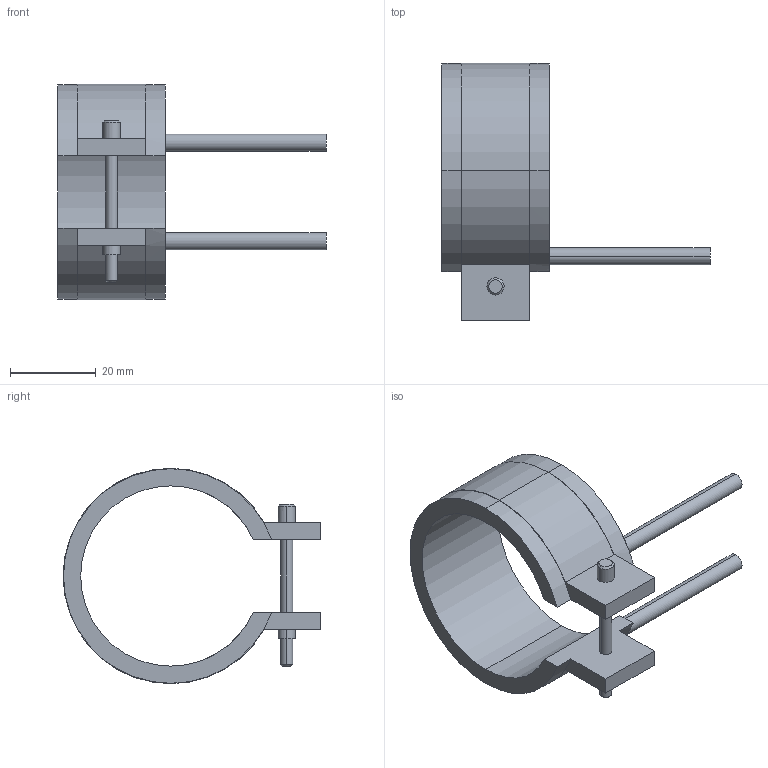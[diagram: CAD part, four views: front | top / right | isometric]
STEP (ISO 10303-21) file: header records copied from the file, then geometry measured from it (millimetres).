
FILE_DESCRIPTION(('CATIA V5 STEP Exchange'),'2;1');
FILE_NAME('C:\Users\Utente\Desktop\IO LAVORO\3D X SITO CF\X SITO\PLASTICA\RF2\14042025.stp','2021-03-31T12:04:53+00:00',('none'),('none'),'CATIA Version 5 Release 20 GA (IN-10)','CATIA V5 STEP AP203','none');
FILE_SCHEMA(('CONFIG_CONTROL_DESIGN'));
Length unit declared in the file: millimetre
Products named in the file (1): 14042025
Bounding box: 62.5 x 60.1 x 50.2 mm (x, y, z)
Volume: 15664.7 mm3; surface area: 9808.8 mm2
Topology: 1 solids, 1 shells, 45 faces, 116 edges, 76 vertices
Faces by surface type: cylinder 24, plane 17, cone 4
Entity records: 1412 total; most frequent: CARTESIAN_POINT 290, ORIENTED_EDGE 232, DIRECTION 194, EDGE_CURVE 116, AXIS2_PLACEMENT_3D 102, VERTEX_POINT 76, CIRCLE 60, VECTOR 52
